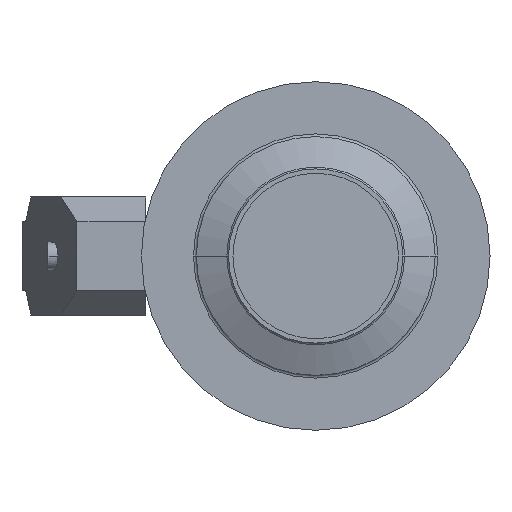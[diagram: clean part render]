
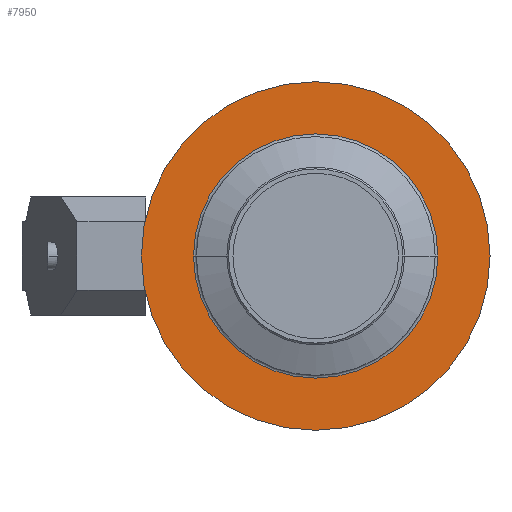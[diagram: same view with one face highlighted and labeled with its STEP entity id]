
A CAD part, left-side view. The second image highlights one B-rep face of the part: STEP entity #7950.
In plain terms, the highlighted planar face has unit normal (-1, 0, 0) as drawn and (1, 0, 0) by its records, which use the part's own axes.
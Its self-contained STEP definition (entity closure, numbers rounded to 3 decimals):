
#7470=CARTESIAN_POINT('',(-381.622,-77.558,
0.));
#7480=VERTEX_POINT('',#7470);
#7560=CARTESIAN_POINT('',(-381.622,49.442,0.));
#7570=VERTEX_POINT('',#7560);
#7600=CARTESIAN_POINT('',(-381.622,-14.058,0.));
#7610=DIRECTION('',(-1.,0.,0.));
#7620=DIRECTION('',(0.,1.,0.));
#7630=AXIS2_PLACEMENT_3D('',#7600,#7610,#7620);
#7640=CIRCLE('',#7630,63.5);
#7650=EDGE_CURVE('',#7480,#7570,#7640,.T.);
#7700=CARTESIAN_POINT('',(-381.622,47.092,0.));
#7710=DIRECTION('',(-1.,0.,0.));
#7720=DIRECTION('',(0.,-1.,0.));
#7730=AXIS2_PLACEMENT_3D('',#7700,#7710,#7720);
#7740=PLANE('',#7730);
#7750=CARTESIAN_POINT('',(-381.622,-14.058,0.));
#7760=DIRECTION('',(-1.,0.,0.));
#7770=DIRECTION('',(0.,1.,0.));
#7780=AXIS2_PLACEMENT_3D('',#7750,#7760,#7770);
#7790=CIRCLE('',#7780,44.5);
#7800=CARTESIAN_POINT('',(-381.622,30.442,0.));
#7810=VERTEX_POINT('',#7800);
#7820=CARTESIAN_POINT('',(-381.622,-58.558,0.));
#7830=VERTEX_POINT('',#7820);
#7840=EDGE_CURVE('',#7810,#7830,#7790,.T.);
#7850=ORIENTED_EDGE('',*,*,#7840,.T.);
#7860=EDGE_CURVE('',#7830,#7810,#7790,.T.);
#7870=ORIENTED_EDGE('',*,*,#7860,.T.);
#7880=EDGE_LOOP('',(#7870,#7850));
#7890=FACE_BOUND('',#7880,.T.);
#7900=EDGE_CURVE('',#7570,#7480,#7640,.T.);
#7910=ORIENTED_EDGE('',*,*,#7900,.F.);
#7920=ORIENTED_EDGE('',*,*,#7650,.F.);
#7930=EDGE_LOOP('',(#7920,#7910));
#7940=FACE_OUTER_BOUND('',#7930,.T.);
#7950=ADVANCED_FACE('',(#7890,#7940),#7740,.F.);
